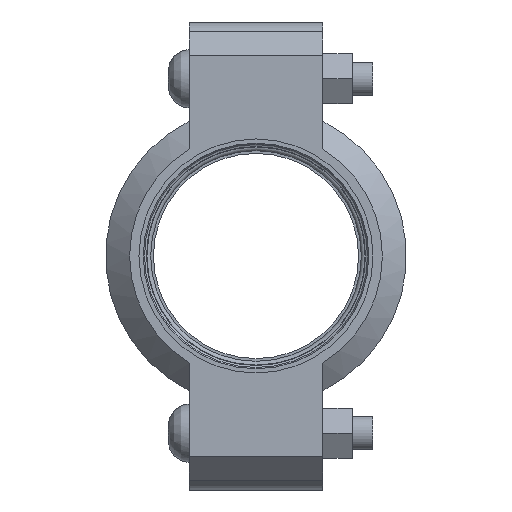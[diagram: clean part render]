
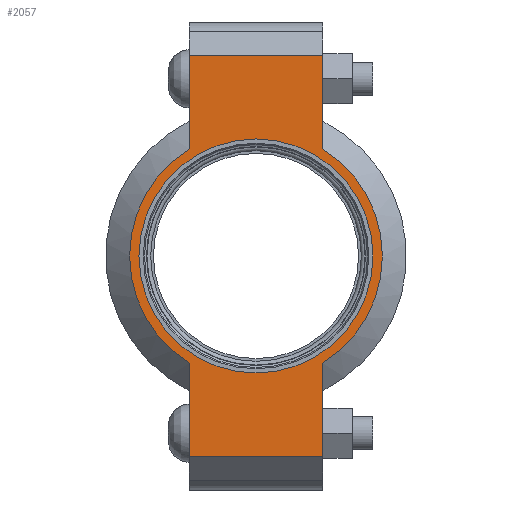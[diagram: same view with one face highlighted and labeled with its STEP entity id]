
A CAD part, left-side view. The second image highlights one B-rep face of the part: STEP entity #2057.
In plain terms, the highlighted planar face has unit normal (-1, 0, 0) as drawn and (0, 0, 1) by its records, which use the part's own axes.
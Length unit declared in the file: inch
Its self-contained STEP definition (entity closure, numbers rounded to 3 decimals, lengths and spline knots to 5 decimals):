
#190=LINE('',#3668,#289);
#198=LINE('',#3704,#297);
#205=LINE('',#3725,#304);
#214=LINE('',#3757,#313);
#215=LINE('',#3761,#314);
#216=LINE('',#3763,#315);
#289=VECTOR('',#3002,0.3937);
#297=VECTOR('',#3018,0.3937);
#304=VECTOR('',#3037,0.3937);
#313=VECTOR('',#3062,0.3937);
#314=VECTOR('',#3067,0.3937);
#315=VECTOR('',#3068,0.3937);
#375=FACE_BOUND('',#645,.T.);
#421=PLANE('',#2422);
#517=FACE_OUTER_BOUND('',#644,.T.);
#644=EDGE_LOOP('',(#1786,#1787,#1788,#1789,#1790,#1791,#1792,#1793));
#645=EDGE_LOOP('',(#1794));
#792=CIRCLE('',#2364,1.75);
#818=CIRCLE('',#2423,1.89);
#819=CIRCLE('',#2424,1.89);
#943=VERTEX_POINT('',#3484);
#986=VERTEX_POINT('',#3665);
#987=VERTEX_POINT('',#3667);
#998=VERTEX_POINT('',#3699);
#999=VERTEX_POINT('',#3703);
#1006=VERTEX_POINT('',#3722);
#1007=VERTEX_POINT('',#3724);
#1017=VERTEX_POINT('',#3760);
#1018=VERTEX_POINT('',#3762);
#1180=EDGE_CURVE('',#943,#943,#792,.T.);
#1241=EDGE_CURVE('',#987,#986,#190,.T.);
#1255=EDGE_CURVE('',#999,#998,#198,.T.);
#1265=EDGE_CURVE('',#1007,#1006,#205,.T.);
#1280=EDGE_CURVE('',#999,#986,#214,.T.);
#1281=EDGE_CURVE('',#998,#1007,#818,.T.);
#1282=EDGE_CURVE('',#1017,#1006,#215,.T.);
#1283=EDGE_CURVE('',#1017,#1018,#216,.T.);
#1284=EDGE_CURVE('',#1018,#987,#819,.T.);
#1786=ORIENTED_EDGE('',*,*,#1280,.F.);
#1787=ORIENTED_EDGE('',*,*,#1255,.T.);
#1788=ORIENTED_EDGE('',*,*,#1281,.T.);
#1789=ORIENTED_EDGE('',*,*,#1265,.T.);
#1790=ORIENTED_EDGE('',*,*,#1282,.F.);
#1791=ORIENTED_EDGE('',*,*,#1283,.T.);
#1792=ORIENTED_EDGE('',*,*,#1284,.T.);
#1793=ORIENTED_EDGE('',*,*,#1241,.T.);
#1794=ORIENTED_EDGE('',*,*,#1180,.T.);
#2057=ADVANCED_FACE('',(#517,#375),#421,.T.);
#2364=AXIS2_PLACEMENT_3D('',#3486,#2878,#2879);
#2422=AXIS2_PLACEMENT_3D('',#3758,#3063,#3064);
#2423=AXIS2_PLACEMENT_3D('',#3759,#3065,#3066);
#2424=AXIS2_PLACEMENT_3D('',#3764,#3069,#3070);
#2878=DIRECTION('center_axis',(0.,0.,-1.));
#2879=DIRECTION('ref_axis',(1.,0.,0.));
#3002=DIRECTION('',(1.,0.,0.));
#3018=DIRECTION('',(-1.,0.,0.));
#3037=DIRECTION('',(-1.,0.,0.));
#3062=DIRECTION('',(0.,-1.,0.));
#3063=DIRECTION('center_axis',(0.,0.,1.));
#3064=DIRECTION('ref_axis',(-1.,0.,0.));
#3065=DIRECTION('center_axis',(0.,0.,1.));
#3066=DIRECTION('ref_axis',(1.,0.,0.));
#3067=DIRECTION('',(0.,1.,0.));
#3068=DIRECTION('',(1.,0.,0.));
#3069=DIRECTION('center_axis',(0.,0.,1.));
#3070=DIRECTION('ref_axis',(1.,0.,0.));
#3484=CARTESIAN_POINT('',(-1.75,0.,0.94));
#3486=CARTESIAN_POINT('Origin',(0.,0.,0.94));
#3665=CARTESIAN_POINT('',(3.,-1.,0.94));
#3667=CARTESIAN_POINT('',(1.60378,-1.,0.94));
#3668=CARTESIAN_POINT('',(3.5,-1.,0.94));
#3699=CARTESIAN_POINT('',(1.60378,1.,0.94));
#3703=CARTESIAN_POINT('',(3.,1.,0.94));
#3704=CARTESIAN_POINT('',(-3.5,1.,0.94));
#3722=CARTESIAN_POINT('',(-3.,1.,0.94));
#3724=CARTESIAN_POINT('',(-1.60378,1.,0.94));
#3725=CARTESIAN_POINT('',(-3.5,1.,0.94));
#3757=CARTESIAN_POINT('',(3.,-0.5,0.94));
#3758=CARTESIAN_POINT('Origin',(0.,0.,
0.94));
#3759=CARTESIAN_POINT('Origin',(0.,0.,0.94));
#3760=CARTESIAN_POINT('',(-3.,-1.,0.94));
#3761=CARTESIAN_POINT('',(-3.,0.5,0.94));
#3762=CARTESIAN_POINT('',(-1.60378,-1.,0.94));
#3763=CARTESIAN_POINT('',(3.5,-1.,0.94));
#3764=CARTESIAN_POINT('Origin',(0.,0.,0.94));
